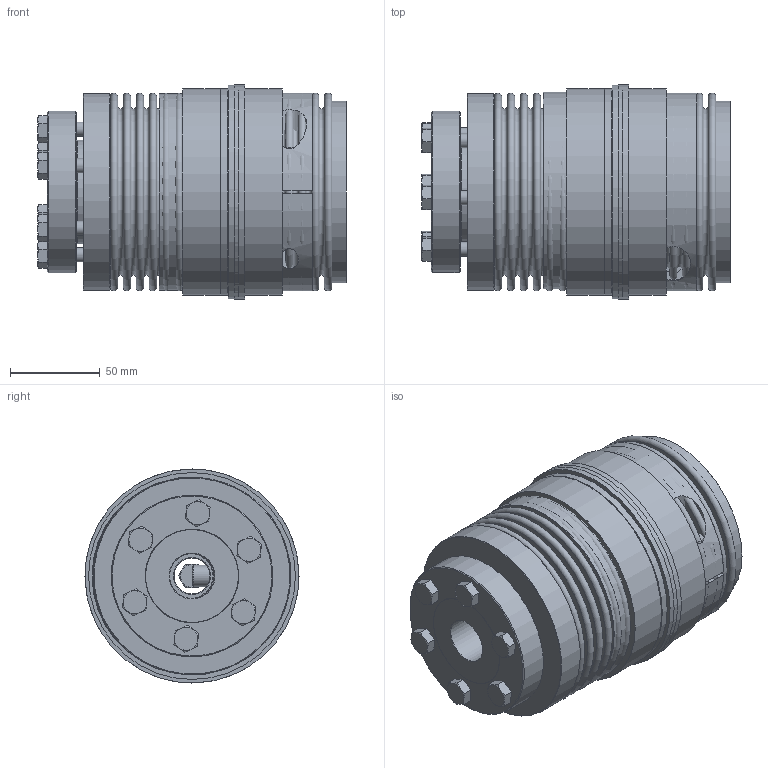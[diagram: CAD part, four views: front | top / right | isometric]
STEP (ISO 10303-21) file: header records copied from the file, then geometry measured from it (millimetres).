
FILE_DESCRIPTION( ( 'Unknown' ), '1' );
FILE_NAME( 'C:/Dokumente und Einstellungen/SKarpstein/Desktop/Korrigierte 3D Modelle/KBK-B-AK/KBK-BAK-300-152.stp', 'Unknown', ( 'Unknown' ), ( 'Unknown' ), 'XStep 1.0', 'Unknown', ' ' );
FILE_SCHEMA( ( 'automotive_design' ) );
Length unit declared in the file: millimetre
Products named in the file (13): Assem1; Assem2; Assem3; Zylinderschraube DIN 912_2_0; Hex Screw GradeC_DIN_ISO 4018 - M8 x 30-NN; DR300_Standard; BA300_Standard; Stellring 300; Druckring 300; Kupplung L-K-300 Grundkörper; Klemmnabe 300; Flansch BK300; BL300_Standard_0
Bounding box: 171.51 x 119 x 119 mm (x, y, z)
Volume: 1922360.1 mm3; surface area: 587402.1 mm2
Topology: 34 solids, 34 shells, 584 faces, 1197 edges, 767 vertices
Faces by surface type: plane 258, cone 149, cylinder 129, torus 48
Full cylindrical faces by diameter (mm): 3.242 x6, 5.2 x6, 6.8 x18, 8 x13, 9 x18, 10.106 x2, 12 x3, 12.5 x2, 18 x3, 19 x2, 20 x2, 25 x3, 52 x2, 55 x4, 57.995 x3, 60 x2, 70 x2, 76 x4, 83.5 x2, 88 x2, 90 x5, 98 x2, 98.5 x2, 99.8 x4, 101 x4, 109.5 x3, 115 x4, 119 x2
Entity records: 4912 total; most frequent: CARTESIAN_POINT 1205, DIRECTION 764, ORIENTED_EDGE 468, AXIS2_PLACEMENT_3D 363, EDGE_LOOP 356, FACE_OUTER_BOUND 249, EDGE_CURVE 234, VERTEX_POINT 208
